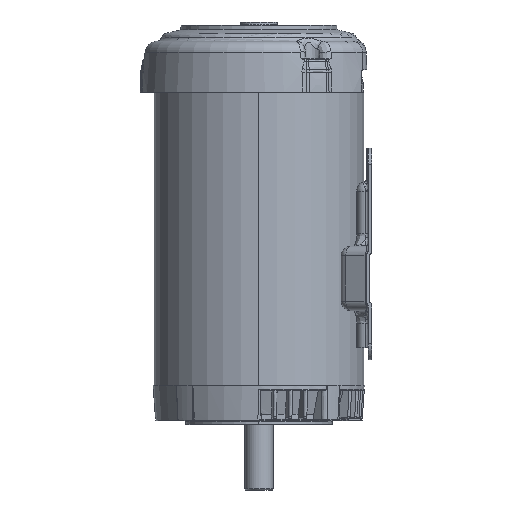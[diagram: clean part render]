
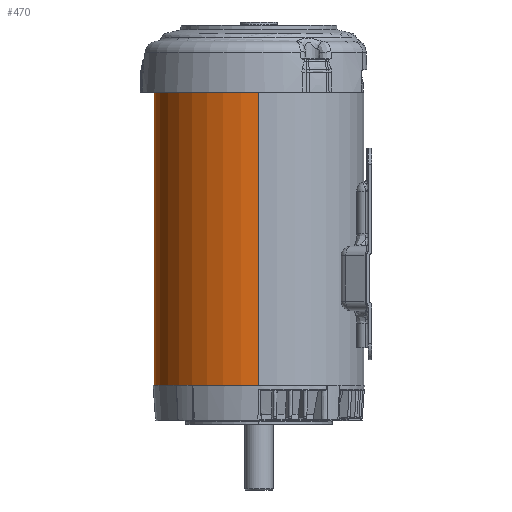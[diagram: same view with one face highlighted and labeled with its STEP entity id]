
A CAD part, left-side view. The second image highlights one B-rep face of the part: STEP entity #470.
In plain terms, the highlighted cylindrical face has radius 81.707 mm (diameter 163.413 mm), a partial arc.
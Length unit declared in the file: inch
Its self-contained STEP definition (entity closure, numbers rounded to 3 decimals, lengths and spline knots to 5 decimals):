
#2=CARTESIAN_POINT('',(0.,0.,-4.5));
#3=DIRECTION('',(0.,0.,1.));
#4=DIRECTION('',(1.,0.,0.));
#5=AXIS2_PLACEMENT_3D('',#2,#3,#4);
#22=CARTESIAN_POINT('',(-3.16715,0.563,-2.8995));
#23=CARTESIAN_POINT('',(-3.1653,0.5734,-2.8995));
#24=CARTESIAN_POINT('',(-3.16174,0.59287,-2.896));
#25=CARTESIAN_POINT('',(-3.15656,0.61977,-2.88067));
#26=CARTESIAN_POINT('',(-3.15261,0.6395,-2.85701));
#27=CARTESIAN_POINT('',(-3.15047,0.64987,-2.82851));
#28=CARTESIAN_POINT('',(-3.15045,0.64998,-2.79796));
#29=CARTESIAN_POINT('',(-3.15258,0.63963,-2.76927));
#30=CARTESIAN_POINT('',(-3.15647,0.62026,-2.74574));
#31=CARTESIAN_POINT('',(-3.1617,0.59308,-2.73003));
#32=CARTESIAN_POINT('',(-3.16529,0.57348,-2.7265));
#33=CARTESIAN_POINT('',(-3.16715,0.563,-2.7265));
#35=CARTESIAN_POINT('',(-3.16715,0.563,-2.7265));
#36=CARTESIAN_POINT('',(-3.16899,0.55262,-2.7265));
#37=CARTESIAN_POINT('',(-3.17235,0.53317,-2.72999));
#38=CARTESIAN_POINT('',(-3.17673,0.50633,-2.74525));
#39=CARTESIAN_POINT('',(-3.1798,0.48657,-2.76887));
#40=CARTESIAN_POINT('',(-3.18137,0.47613,-2.79744));
#41=CARTESIAN_POINT('',(-3.18139,0.47602,-2.82811));
#42=CARTESIAN_POINT('',(-3.17982,0.48644,-2.85687));
#43=CARTESIAN_POINT('',(-3.17681,0.50586,-2.88036));
#44=CARTESIAN_POINT('',(-3.17238,0.53299,-2.89599));
#45=CARTESIAN_POINT('',(-3.16901,0.55255,-2.8995));
#46=CARTESIAN_POINT('',(-3.16715,0.563,-2.8995));
#48=CARTESIAN_POINT('',(0.,0.,-2.403));
#49=DIRECTION('',(0.,0.,1.));
#50=DIRECTION('',(-0.996,0.089,0.));
#51=AXIS2_PLACEMENT_3D('',#48,#49,#50);
#53=CARTESIAN_POINT('',(-3.19056,0.41,-2.528));
#54=CARTESIAN_POINT('',(-3.19056,0.41,-2.51851));
#55=CARTESIAN_POINT('',(-3.19084,0.4079,-2.50006));
#56=CARTESIAN_POINT('',(-3.19202,0.3986,-2.47335));
#57=CARTESIAN_POINT('',(-3.19387,0.38354,-2.44938));
#58=CARTESIAN_POINT('',(-3.19621,0.36357,-2.42943));
#59=CARTESIAN_POINT('',(-3.19885,0.3397,-2.41443));
#60=CARTESIAN_POINT('',(-3.20158,0.31298,-2.40511));
#61=CARTESIAN_POINT('',(-3.2033,0.29451,-2.403));
#62=CARTESIAN_POINT('',(-3.20415,0.285,-2.403));
#64=DIRECTION('',(0.,0.,1.));
#65=VECTOR('',#64,0.95);
#66=CARTESIAN_POINT('',(-3.19056,0.41,-3.478));
#67=LINE('',#66,#65);
#68=CARTESIAN_POINT('',(-3.20415,0.285,-3.603));
#69=CARTESIAN_POINT('',(-3.20331,0.29448,-3.603));
#70=CARTESIAN_POINT('',(-3.20158,0.3129,-3.6009));
#71=CARTESIAN_POINT('',(-3.19886,0.33955,-3.59165));
#72=CARTESIAN_POINT('',(-3.19622,0.36348,-3.57664));
#73=CARTESIAN_POINT('',(-3.19388,0.38346,-3.55671));
#74=CARTESIAN_POINT('',(-3.19203,0.39852,-3.53282));
#75=CARTESIAN_POINT('',(-3.19084,0.40789,-3.50603));
#76=CARTESIAN_POINT('',(-3.19056,0.41,-3.48752));
#77=CARTESIAN_POINT('',(-3.19056,0.41,-3.478));
#79=CARTESIAN_POINT('',(0.,0.,-3.603));
#80=DIRECTION('',(0.,0.,1.));
#81=DIRECTION('',(-0.996,0.089,0.));
#82=AXIS2_PLACEMENT_3D('',#79,#80,#81);
#84=DIRECTION('',(0.,0.,1.));
#85=VECTOR('',#84,9.);
#86=CARTESIAN_POINT('',(3.2168,0.,-4.5));
#87=LINE('',#86,#85);
#201=DIRECTION('',(0.,0.,1.));
#202=VECTOR('',#201,6.903);
#203=CARTESIAN_POINT('',(-3.2168,0.,-2.403));
#204=LINE('',#203,#202);
#205=DIRECTION('',(0.,0.,1.));
#206=VECTOR('',#205,0.897);
#207=CARTESIAN_POINT('',(-3.2168,0.,-4.5));
#208=LINE('',#207,#206);
#342=CARTESIAN_POINT('',(0.,0.,4.5));
#343=DIRECTION('',(0.,0.,1.));
#344=DIRECTION('',(1.,0.,0.));
#345=AXIS2_PLACEMENT_3D('',#342,#343,#344);
#362=CARTESIAN_POINT('',(3.2168,0.,-4.5));
#363=CARTESIAN_POINT('',(-3.2168,0.,-4.5));
#364=VERTEX_POINT('',#362);
#365=VERTEX_POINT('',#363);
#370=CARTESIAN_POINT('',(3.2168,0.,4.5));
#371=CARTESIAN_POINT('',(-3.2168,0.,4.5));
#372=VERTEX_POINT('',#370);
#373=VERTEX_POINT('',#371);
#378=VERTEX_POINT('',#22);
#379=VERTEX_POINT('',#33);
#380=CARTESIAN_POINT('',(-3.20415,0.285,-2.403));
#381=CARTESIAN_POINT('',(-3.2168,0.,-2.403));
#382=VERTEX_POINT('',#380);
#383=VERTEX_POINT('',#381);
#384=CARTESIAN_POINT('',(-3.20415,0.285,-3.603));
#385=CARTESIAN_POINT('',(-3.2168,0.,-3.603));
#386=VERTEX_POINT('',#384);
#387=VERTEX_POINT('',#385);
#388=VERTEX_POINT('',#77);
#389=CARTESIAN_POINT('',(-3.19056,0.41,-2.528));
#390=VERTEX_POINT('',#389);
#438=CARTESIAN_POINT('',(0.,0.,-4.5));
#439=DIRECTION('',(0.,0.,1.));
#440=DIRECTION('',(1.,0.,0.));
#441=AXIS2_PLACEMENT_3D('',#438,#439,#440);
#442=CYLINDRICAL_SURFACE('',#441,3.2168);
#444=ORIENTED_EDGE('',*,*,#443,.F.);
#446=ORIENTED_EDGE('',*,*,#445,.F.);
#448=ORIENTED_EDGE('',*,*,#447,.F.);
#450=ORIENTED_EDGE('',*,*,#449,.F.);
#452=ORIENTED_EDGE('',*,*,#451,.T.);
#454=ORIENTED_EDGE('',*,*,#453,.F.);
#455=ORIENTED_EDGE('',*,*,#425,.F.);
#457=ORIENTED_EDGE('',*,*,#456,.T.);
#459=ORIENTED_EDGE('',*,*,#458,.T.);
#461=ORIENTED_EDGE('',*,*,#460,.F.);
#462=EDGE_LOOP('',(#444,#446,#448,#450,#452,#454,#455,#457,#459,#461));
#463=FACE_OUTER_BOUND('',#462,.F.);
#465=ORIENTED_EDGE('',*,*,#464,.F.);
#467=ORIENTED_EDGE('',*,*,#466,.F.);
#468=EDGE_LOOP('',(#465,#467));
#469=FACE_BOUND('',#468,.F.);
#470=ADVANCED_FACE('',(#463,#469),#442,.T.);
#6=CIRCLE('',#5,3.2168);
#34=B_SPLINE_CURVE_WITH_KNOTS('',3,(#22,#23,#24,#25,#26,#27,#28,#29,#30,#31,#32,
#33),.UNSPECIFIED.,.F.,.F.,(4,1,1,1,1,1,1,1,1,4),(0.,0.11111,
0.22222,0.33333,0.44444,0.55556,
0.66667,0.77778,0.88889,1.),.UNSPECIFIED.);
#47=B_SPLINE_CURVE_WITH_KNOTS('',3,(#35,#36,#37,#38,#39,#40,#41,#42,#43,#44,#45,
#46),.UNSPECIFIED.,.F.,.F.,(4,1,1,1,1,1,1,1,1,4),(0.,0.11111,
0.22222,0.33333,0.44444,0.55556,
0.66667,0.77778,0.88889,1.),.UNSPECIFIED.);
#52=CIRCLE('',#51,3.2168);
#63=B_SPLINE_CURVE_WITH_KNOTS('',3,(#53,#54,#55,#56,#57,#58,#59,#60,#61,#62),
.UNSPECIFIED.,.F.,.F.,(4,1,1,1,1,1,1,4),(0.,0.14286,
0.28571,0.42857,0.57143,0.71429,
0.85714,1.),.UNSPECIFIED.);
#78=B_SPLINE_CURVE_WITH_KNOTS('',3,(#68,#69,#70,#71,#72,#73,#74,#75,#76,#77),
.UNSPECIFIED.,.F.,.F.,(4,1,1,1,1,1,1,4),(0.,0.14286,
0.28571,0.42857,0.57143,0.71429,
0.85714,1.),.UNSPECIFIED.);
#83=CIRCLE('',#82,3.2168);
#346=CIRCLE('',#345,3.2168);
#425=EDGE_CURVE('',#364,#365,#6,.T.);
#443=EDGE_CURVE('',#382,#383,#52,.T.);
#445=EDGE_CURVE('',#390,#382,#63,.T.);
#447=EDGE_CURVE('',#388,#390,#67,.T.);
#449=EDGE_CURVE('',#386,#388,#78,.T.);
#451=EDGE_CURVE('',#386,#387,#83,.T.);
#453=EDGE_CURVE('',#365,#387,#208,.T.);
#456=EDGE_CURVE('',#364,#372,#87,.T.);
#458=EDGE_CURVE('',#372,#373,#346,.T.);
#460=EDGE_CURVE('',#383,#373,#204,.T.);
#464=EDGE_CURVE('',#378,#379,#34,.T.);
#466=EDGE_CURVE('',#379,#378,#47,.T.);
